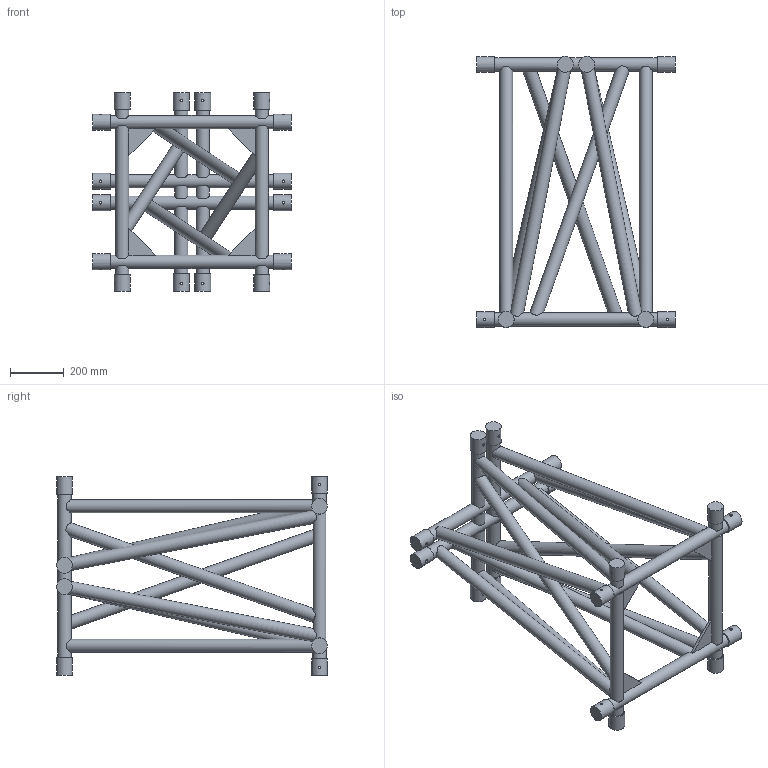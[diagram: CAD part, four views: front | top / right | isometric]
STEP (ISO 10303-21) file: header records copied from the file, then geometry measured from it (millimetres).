
FILE_DESCRIPTION(/* description */ (''),/* implementation_level */ '2;1');
FILE_NAME(/* name */ 'M:\Symbolen_NIEUW\STP\Corners\S100F\S100F-C016_111110026.stp',/* time_stamp */ '2017-11-30T16:44:07+01:00',/* author */ ('Kees'),/* organization */ (''),/* preprocessor_version */ 'ST-DEVELOPER v16.13',/* originating_system */ 'Autodesk Inventor 2018',/* authorisation */ '');
FILE_SCHEMA (('AUTOMOTIVE_DESIGN { 1 0 10303 214 3 1 1 }'));
Length unit declared in the file: millimetre
Products named in the file (1): 260010086
Bounding box: 740 x 1008.66 x 740 mm (x, y, z)
Volume: 32608840.9 mm3; surface area: 2763364.6 mm2
Topology: 5 solids, 5 shells, 271 faces, 679 edges, 430 vertices
Faces by surface type: plane 164, cylinder 91, cone 16
Full cylindrical faces by diameter (mm): 10 x16, 48.3 x12, 50 x16, 58.8 x16
Entity records: 10521 total; most frequent: CARTESIAN_POINT 4161, DIRECTION 1222, ORIENTED_EDGE 1160, EDGE_CURVE 580, AXIS2_PLACEMENT_3D 521, EDGE_LOOP 420, VERTEX_POINT 420, STYLED_ITEM 265
